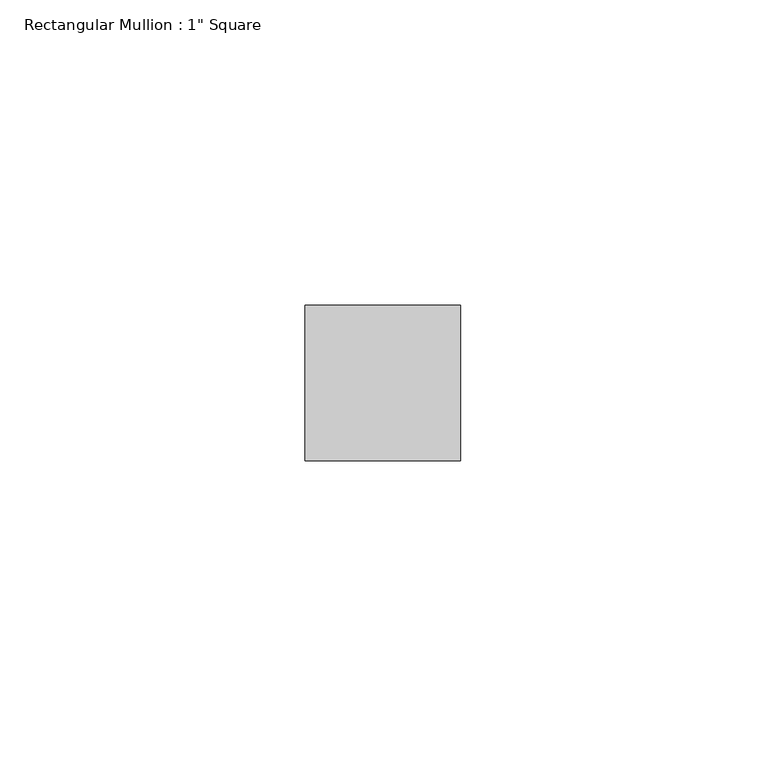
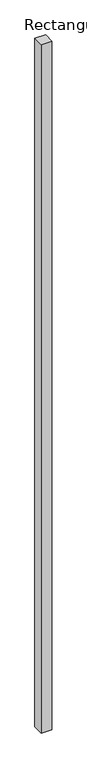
"""IFC4 building model written with IfcOpenShell, lengths in millimetres: member geometry."""

from ifc_helpers import new_model, si_unit, frame, origin, place, context, project, spatial, polyline, outline, extrude, source, transform, mapped, element, save


def member_1c681369(model_context):
    return source(origin(), model_context, "Body", "SweptSolid", [
        extrude(outline(polyline([(12.7, 12.7), (12.7, -12.7), (-12.7, -12.7), (-12.7, 12.7), (12.7, 12.7)])), frame((0.0, 0.0, -1728.2871241), z_axis=(0.0, 0.0, 1.0), x_axis=(1.0, 0.0, 0.0)), (0.0, 0.0, 1.0), 1728.2871241),
    ])


if __name__ == "__main__":
    model = new_model("IFC4")
    model_context = context("Model", 3, world=origin())
    ifc_project = project(units=[si_unit("LENGTHUNIT", "METRE", prefix="MILLI")], contexts=[model_context])
    site = spatial("IfcSite", under=ifc_project)
    building = spatial("IfcBuilding", under=site)
    placement = place(None, origin())
    member_shape = member_1c681369(model_context)
    element("IfcMember", 1, ObjectType="Rectangular Mullion : 1\" Square", at=placement, inside=building, context=model_context, shape_type="MappedRepresentation", body=[
        mapped(member_shape, transform((0.0, 0.0, 0.0), x_axis=(1.0, 0.0, 0.0), y_axis=(0.0, 1.0, 0.0), z_axis=(0.0, 0.0, 1.0))),
    ])
    save(model, "model.ifc")
